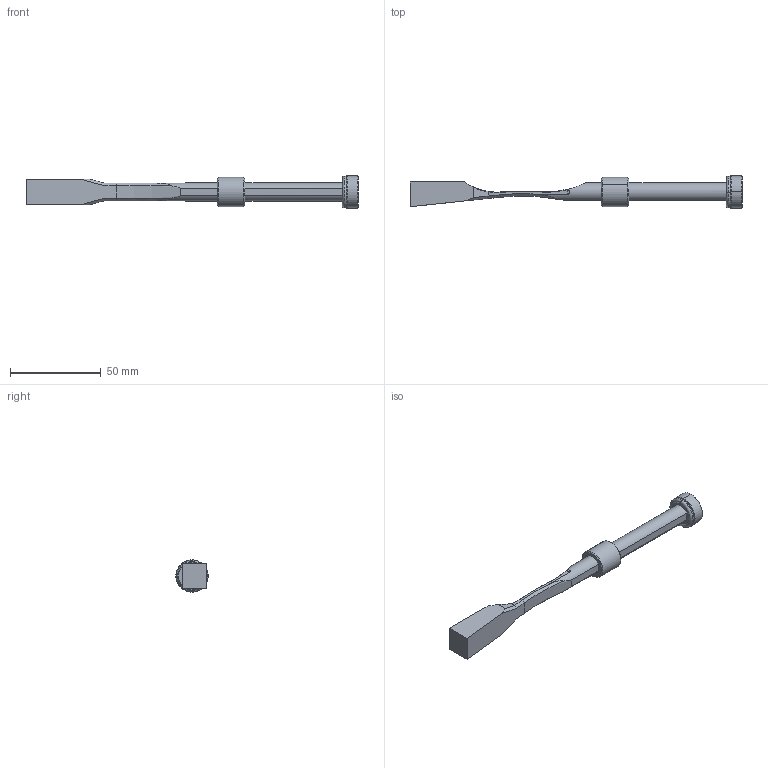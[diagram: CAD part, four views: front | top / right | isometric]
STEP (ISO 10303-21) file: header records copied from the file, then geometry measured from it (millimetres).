
FILE_DESCRIPTION (( 'STEP AP214' ), '1' );
FILE_NAME ('PW101430-TANCADA.STEP', '2020-02-10T08:48:56', ( '' ), ( '' ), 'SwSTEP 2.0', 'SolidWorks 2018', '' );
FILE_SCHEMA (( 'AUTOMOTIVE_DESIGN' ));
Length unit declared in the file: millimetre
Products named in the file (6): 9PW101430 TANCADA; 1DIN7984616_DIN 7984 - M6 x 16 --- 16C; 9FP1808M6; 9CS101615; 3JT12.5X2.5X17.5; PW101430-TANCADA
Assembly tree (5 placements, depth 2):
  PW101430-TANCADA
    9PW101430 TANCADA
    9CS101615
    9FP1808M6
    3JT12.5X2.5X17.5
    1DIN7984616_DIN 7984 - M6 x 16 --- 16C
Bounding box: 183 x 17.8 x 17.8 mm (x, y, z)
Volume: 17518.2 mm3; surface area: 10230.8 mm2
Topology: 5 solids, 5 shells, 106 faces, 237 edges, 140 vertices
Faces by surface type: plane 36, cone 28, cylinder 24, torus 16, bspline 2
Entity records: 3491 total; most frequent: CARTESIAN_POINT 671, DIRECTION 547, ORIENTED_EDGE 466, EDGE_CURVE 233, AXIS2_PLACEMENT_3D 220, VERTEX_POINT 140, EDGE_LOOP 115, CIRCLE 108
